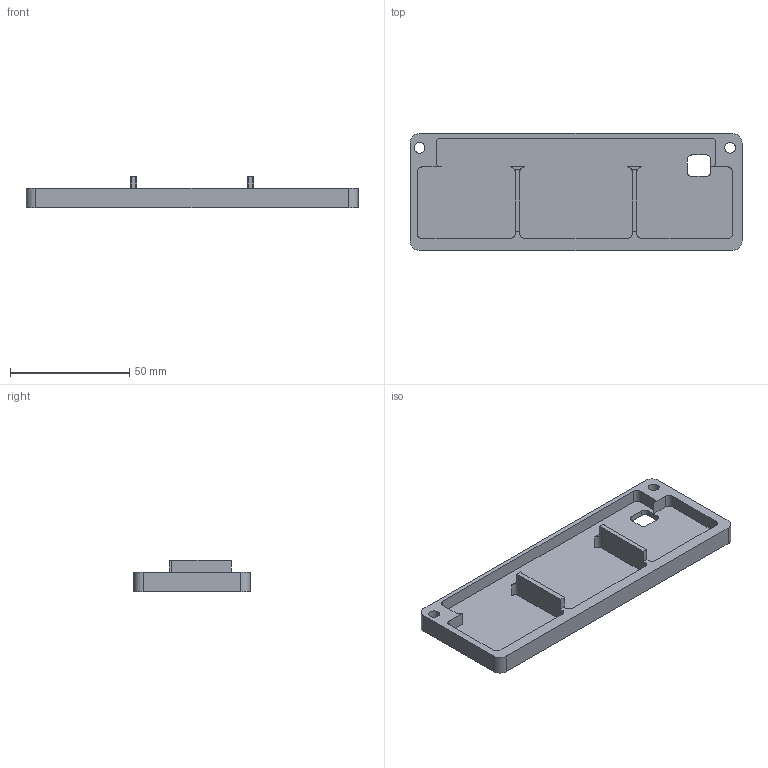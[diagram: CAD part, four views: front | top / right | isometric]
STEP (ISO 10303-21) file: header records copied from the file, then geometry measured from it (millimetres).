
FILE_DESCRIPTION(('FreeCAD Model'),'2;1');
FILE_NAME('Open CASCADE Shape Model','2026-09-08T07:02:37',('FreeCAD'),( 'FreeCAD'),'Open CASCADE STEP processor 7.8','FreeCAD','Unknown');
FILE_SCHEMA(('AUTOMOTIVE_DESIGN { 1 0 10303 214 1 1 1 1 }'));
Length unit declared in the file: millimetre
Products named in the file (1): Open CASCADE STEP translator 7.8 6
Bounding box: 139 x 49 x 13 mm (x, y, z)
Volume: 24834.5 mm3; surface area: 20058 mm2
Topology: 1 solids, 1 shells, 69 faces, 193 edges, 128 vertices
Faces by surface type: plane 43, cylinder 26
Full cylindrical faces by diameter (mm): 4.5 x2
Entity records: 2251 total; most frequent: CARTESIAN_POINT 391, DIRECTION 389, ORIENTED_EDGE 386, EDGE_CURVE 193, LINE 137, VECTOR 137, VERTEX_POINT 128, AXIS2_PLACEMENT_3D 126
